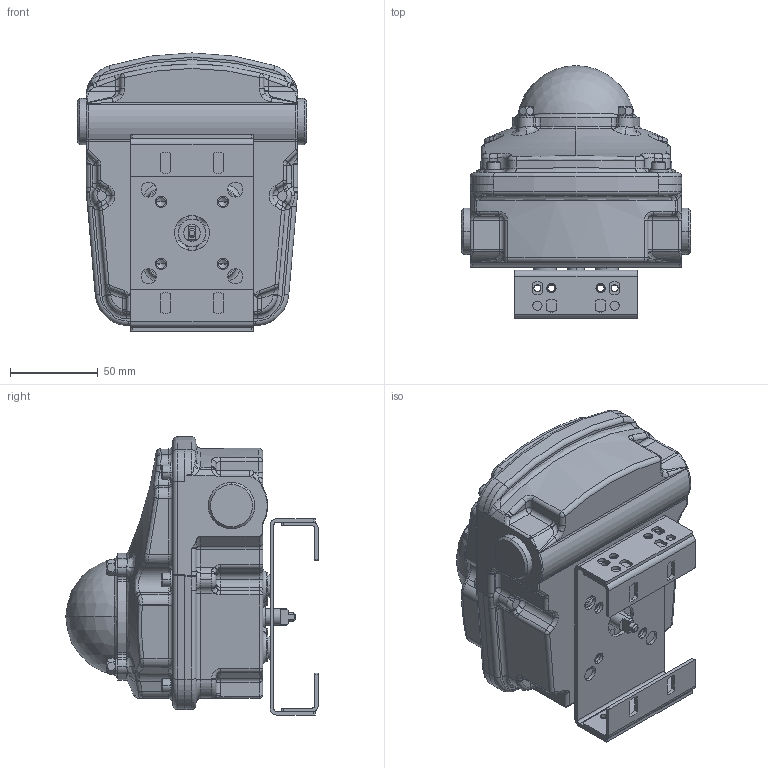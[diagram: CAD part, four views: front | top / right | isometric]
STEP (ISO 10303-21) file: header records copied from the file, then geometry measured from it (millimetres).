
FILE_DESCRIPTION (( 'STEP AP214' ), '1' );
FILE_NAME ('S5B_with_AdjustableBracket_30X80.STEP', '2018-10-15T13:11:28', ( '' ), ( '' ), 'SwSTEP 2.0', 'SolidWorks 2018', '' );
FILE_SCHEMA (( 'AUTOMOTIVE_DESIGN' ));
Length unit declared in the file: millimetre
Products named in the file (3): Adjustable Bracket 30X80-Simple; S5B Al (EC)SIMPLE-ForCOMP2; S5B_with_AdjustableBracket_30X80
Assembly tree (2 placements, depth 2):
  S5B_with_AdjustableBracket_30X80
    Adjustable Bracket 30X80-Simple
    S5B Al (EC)SIMPLE-ForCOMP2
Bounding box: 130.81 x 144.06 x 158.72 mm (x, y, z)
Volume: 1200587.6 mm3; surface area: 107767.3 mm2
Topology: 4 solids, 6 shells, 980 faces, 2418 edges, 1442 vertices
Faces by surface type: cylinder 337, plane 193, bspline 178, torus 151, cone 95, sphere 26
Entity records: 46065 total; most frequent: CARTESIAN_POINT 14668, ORIENTED_EDGE 4760, DIRECTION 4653, EDGE_CURVE 2380, AXIS2_PLACEMENT_3D 1973, VERTEX_POINT 1442, CIRCLE 1166, EDGE_LOOP 1088
